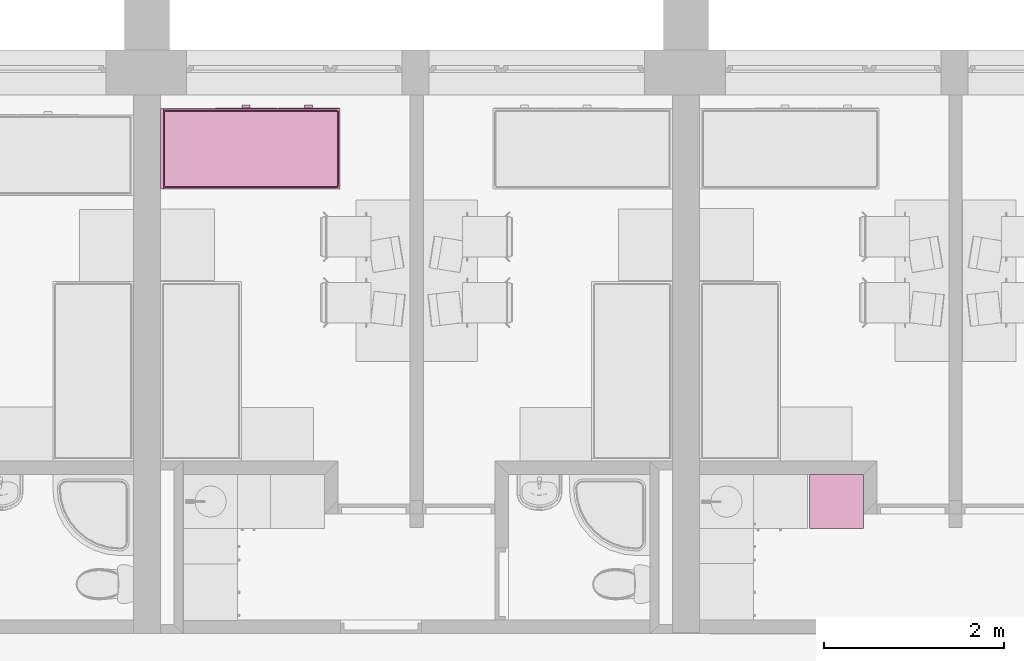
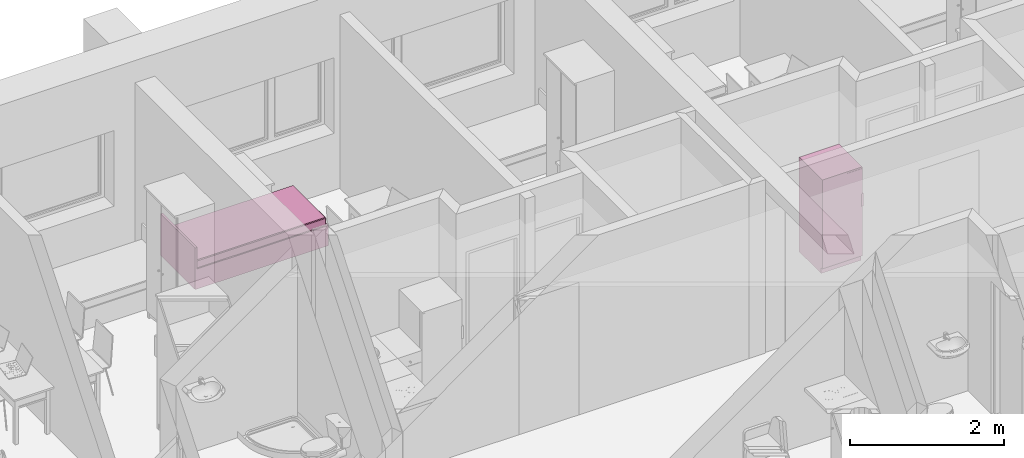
# One storey, part 139 of 172: 2 furnishings.
"""IFC2X3 building model written with IfcOpenShell, lengths in millimetres."""

from ifc_helpers import new_model, entity, si_unit, converted_unit, money_unit, direction, frame, origin_with_axes, place, context, subcontext, project, spatial, open_shell, faceted_brep, surface_model, source, transform, mapped, material, material_list, type_object, element, save


model = new_model("IFC2X3")

# Units and contexts
model_context = context("Model", 3, precision=1e-05, world=origin_with_axes(), true_north=direction((0.0, 1.0)))
body_context = subcontext(model_context, "Body", "Model", "MODEL_VIEW")
ifc_project = project(units=[si_unit("LENGTHUNIT", "METRE", prefix="MILLI"), si_unit("AREAUNIT", "SQUARE_METRE"), si_unit("VOLUMEUNIT", "CUBIC_METRE"), converted_unit("PLANEANGLEUNIT", "DEGREE", entity("IfcPlaneAngleMeasure", 0.0174532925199), si_unit("PLANEANGLEUNIT", "RADIAN"), dimensions=[0, 0, 0, 0, 0, 0, 0]), si_unit("SOLIDANGLEUNIT", "STERADIAN"), money_unit("USD"), converted_unit("TIMEUNIT", "Year", entity("IfcTimeMeasure", 31556926.0), si_unit("TIMEUNIT", "SECOND"), dimensions=[0, 0, 0, 0, 0, 0, 0]), si_unit("MASSUNIT", "GRAM"), si_unit("THERMODYNAMICTEMPERATUREUNIT", "DEGREE_CELSIUS"), si_unit("LUMINOUSINTENSITYUNIT", "LUMEN")], contexts=[model_context])

# Site, building, storey
site_placement = place(None, origin_with_axes())
site = spatial("IfcSite", under=ifc_project, at=site_placement, Name="Site", CompositionType="ELEMENT")
building_placement = place(site_placement, origin_with_axes())
building = spatial("IfcBuilding", under=site, at=building_placement, Name="Building", CompositionType="ELEMENT")
storey_placement = place(building_placement, frame((0.0, 0.0, 3200.0), z_axis=(0.0, 0.0, 1.0), x_axis=(1.0, 0.0, 0.0)))
storey = spatial("IfcBuildingStorey", under=building, at=storey_placement, Name="3KORRUS", CompositionType="ELEMENT", Elevation=3200.0)

# Furnishings
ifc_material = material(Name="Background")
ifc_material_list = material_list([ifc_material])
furnishing_element_type_1 = type_object("IfcFurnishingElementType", Name="Bed 19")
shared_shape_1 = source(origin_with_axes(), body_context, "Body", "Brep", [
    faceted_brep([(900.0, 1970.0, 0.0), (0.0, 1970.0, 0.0), (0.0, 2000.0, 0.0), (900.0, 2000.0, 0.0), (900.0, 1970.0, 660.0), (0.0, 1970.0, 660.0), (0.0, 2000.0, 660.0), (900.0, 2000.0, 660.0)], [[[0, 1, 2, 3]], [[1, 0, 4, 5]], [[2, 1, 5, 6]], [[3, 2, 6, 7]], [[0, 3, 7, 4]], [[5, 4, 7, 6]]]),
    faceted_brep([(900.0, 0.0, 0.0), (0.0, 0.0, 0.0), (0.0, 1970.0, 0.0), (900.0, 1970.0, 0.0), (900.0, 0.0, 320.0), (0.0, 0.0, 320.0), (0.0, 1970.0, 320.0), (900.0, 1970.0, 320.0)], [[[0, 1, 2, 3]], [[1, 0, 4, 5]], [[2, 1, 5, 6]], [[3, 2, 6, 7]], [[0, 3, 7, 4]], [[5, 4, 7, 6]]]),
    faceted_brep([(905.0, 10.0, 30.0), (900.0, 10.0, 30.0), (900.0, 695.0, 30.0), (905.0, 695.0, 30.0), (905.0, 10.0, 290.0), (900.0, 10.0, 290.0), (900.0, 695.0, 290.0), (905.0, 695.0, 290.0)], [[[0, 1, 2, 3]], [[1, 0, 4, 5]], [[2, 1, 5, 6]], [[3, 2, 6, 7]], [[0, 3, 7, 4]], [[5, 4, 7, 6]]]),
    faceted_brep([(935.0, 307.5, 150.0), (905.0, 307.5, 150.0), (905.0, 397.5, 150.0), (935.0, 397.5, 150.0), (935.0, 307.5, 170.0), (905.0, 307.5, 170.0), (905.0, 397.5, 170.0), (935.0, 397.5, 170.0)], [[[0, 1, 2, 3]], [[1, 0, 4, 5]], [[2, 1, 5, 6]], [[3, 2, 6, 7]], [[0, 3, 7, 4]], [[5, 4, 7, 6]]]),
    faceted_brep([(905.0, 705.0, 30.0), (900.0, 705.0, 30.0), (900.0, 1390.0, 30.0), (905.0, 1390.0, 30.0), (905.0, 705.0, 290.0), (900.0, 705.0, 290.0), (900.0, 1390.0, 290.0), (905.0, 1390.0, 290.0)], [[[0, 1, 2, 3]], [[1, 0, 4, 5]], [[2, 1, 5, 6]], [[3, 2, 6, 7]], [[0, 3, 7, 4]], [[5, 4, 7, 6]]]),
    faceted_brep([(935.0, 1002.5, 150.0), (905.0, 1002.5, 150.0), (905.0, 1092.5, 150.0), (935.0, 1092.5, 150.0), (935.0, 1002.5, 170.0), (905.0, 1002.5, 170.0), (905.0, 1092.5, 170.0), (935.0, 1092.5, 170.0)], [[[0, 1, 2, 3]], [[1, 0, 4, 5]], [[2, 1, 5, 6]], [[3, 2, 6, 7]], [[0, 3, 7, 4]], [[5, 4, 7, 6]]]),
    faceted_brep([(20.0, 40.0, 350.0), (20.0, 1950.0, 350.0), (21.522, 1957.654, 350.0), (25.858, 1964.142, 350.0), (32.346, 1968.478, 350.0), (40.0, 1970.0, 350.0), (860.0, 1970.0, 350.0), (867.654, 1968.478, 350.0), (874.142, 1964.142, 350.0), (878.478, 1957.654, 350.0), (880.0, 1950.0, 350.0), (880.0, 40.0, 350.0), (878.478, 32.346, 350.0), (874.142, 25.858, 350.0), (867.654, 21.522, 350.0), (860.0, 20.0, 350.0), (40.0, 20.0, 350.0), (32.346, 21.522, 350.0), (25.858, 25.858, 350.0), (21.522, 32.346, 350.0), (20.0, 40.0, 420.0), (20.0, 1950.0, 420.0), (21.522, 1957.654, 420.0), (25.858, 1964.142, 420.0), (32.346, 1968.478, 420.0), (40.0, 1970.0, 420.0), (860.0, 1970.0, 420.0), (867.654, 1968.478, 420.0), (874.142, 1964.142, 420.0), (878.478, 1957.654, 420.0), (880.0, 1950.0, 420.0), (880.0, 40.0, 420.0), (878.478, 32.346, 420.0), (874.142, 25.858, 420.0), (867.654, 21.522, 420.0), (860.0, 20.0, 420.0), (40.0, 20.0, 420.0), (32.346, 21.522, 420.0), (25.858, 25.858, 420.0), (21.522, 32.346, 420.0), (21.522, 40.15, 427.654), (21.522, 1949.85, 427.654), (22.956, 1957.06, 427.654), (26.955, 1963.045, 427.654), (32.94, 1967.044, 427.654), (40.15, 1968.478, 427.654), (859.85, 1968.478, 427.654), (867.06, 1967.044, 427.654), (873.045, 1963.045, 427.654), (877.044, 1957.06, 427.654), (878.478, 1949.85, 427.654), (878.478, 40.15, 427.654), (877.044, 32.94, 427.654), (873.045, 26.955, 427.654), (867.06, 22.956, 427.654), (859.85, 21.522, 427.654), (40.15, 21.522, 427.654), (32.94, 22.956, 427.654), (26.955, 26.955, 427.654), (22.956, 32.94, 427.654), (32.346, 41.216, 438.478), (32.346, 1948.784, 438.478), (33.152, 1952.836, 438.478), (34.759, 1955.241, 438.478), (37.164, 1956.848, 438.478), (41.216, 1957.654, 438.478), (858.784, 1957.654, 438.478), (862.836, 1956.848, 438.478), (865.241, 1955.241, 438.478), (866.848, 1952.836, 438.478), (867.654, 1948.784, 438.478), (867.654, 41.216, 438.478), (866.848, 37.164, 438.478), (865.241, 34.759, 438.478), (862.836, 33.152, 438.478), (858.784, 32.346, 438.478), (41.216, 32.346, 438.478), (37.164, 33.152, 438.478), (34.759, 34.759, 438.478), (33.152, 37.164, 438.478), (40.0, 41.97, 440.0), (40.0, 1948.03, 440.0), (40.327, 1949.673, 440.0), (40.0, 1950.0, 439.924), (41.97, 1950.0, 440.0), (858.03, 1950.0, 440.0), (859.673, 1949.673, 440.0), (860.0, 1950.0, 439.924), (860.0, 1948.03, 440.0), (860.0, 41.97, 440.0), (859.673, 40.327, 440.0), (860.0, 40.0, 439.924), (858.03, 40.0, 440.0), (41.97, 40.0, 440.0), (40.327, 40.327, 440.0), (40.0, 40.0, 439.924)], [[[0, 1, 2, 3, 4, 5, 6, 7, 8, 9, 10, 11, 12, 13, 14, 15, 16, 17, 18, 19]], [[1, 0, 20, 21]], [[2, 1, 21, 22]], [[3, 2, 22, 23]], [[4, 3, 23, 24]], [[5, 4, 24, 25]], [[6, 5, 25, 26]], [[7, 6, 26, 27]], [[8, 7, 27, 28]], [[9, 8, 28, 29]], [[10, 9, 29, 30]], [[11, 10, 30, 31]], [[12, 11, 31, 32]], [[13, 12, 32, 33]], [[14, 13, 33, 34]], [[15, 14, 34, 35]], [[16, 15, 35, 36]], [[17, 16, 36, 37]], [[18, 17, 37, 38]], [[19, 18, 38, 39]], [[0, 19, 39, 20]], [[21, 20, 40, 41]], [[22, 21, 41, 42]], [[23, 22, 42, 43]], [[24, 23, 43, 44]], [[25, 24, 44, 45]], [[26, 25, 45, 46]], [[27, 26, 46, 47]], [[28, 27, 47, 48]], [[29, 28, 48, 49]], [[30, 29, 49, 50]], [[31, 30, 50, 51]], [[32, 31, 51, 52]], [[33, 32, 52, 53]], [[34, 33, 53, 54]], [[35, 34, 54, 55]], [[36, 35, 55, 56]], [[37, 36, 56, 57]], [[38, 37, 57, 58]], [[39, 38, 58, 59]], [[20, 39, 59, 40]], [[41, 40, 60, 61]], [[42, 41, 61, 62]], [[43, 42, 62, 63]], [[44, 43, 63, 64]], [[45, 44, 64, 65]], [[46, 45, 65, 66]], [[47, 46, 66, 67]], [[48, 47, 67, 68]], [[49, 48, 68, 69]], [[50, 49, 69, 70]], [[51, 50, 70, 71]], [[52, 51, 71, 72]], [[53, 52, 72, 73]], [[54, 53, 73, 74]], [[55, 54, 74, 75]], [[56, 55, 75, 76]], [[57, 56, 76, 77]], [[58, 57, 77, 78]], [[59, 58, 78, 79]], [[40, 59, 79, 60]], [[61, 60, 80, 81]], [[62, 61, 81, 82, 83]], [[63, 62, 83]], [[64, 63, 83]], [[65, 64, 83, 82, 84]], [[66, 65, 84, 85]], [[67, 66, 85, 86, 87]], [[68, 67, 87]], [[69, 68, 87]], [[70, 69, 87, 86, 88]], [[71, 70, 88, 89]], [[72, 71, 89, 90, 91]], [[73, 72, 91]], [[74, 73, 91]], [[75, 74, 91, 90, 92]], [[76, 75, 92, 93]], [[77, 76, 93, 94, 95]], [[78, 77, 95]], [[79, 78, 95]], [[60, 79, 95, 94, 80]], [[81, 80, 94, 93, 92, 90, 89, 88, 86, 85, 84, 82]]]),
    faceted_brep([(20.0, 40.0, 350.0), (21.522, 32.346, 350.0), (25.858, 25.858, 350.0), (32.346, 21.522, 350.0), (40.0, 20.0, 350.0), (860.0, 20.0, 350.0), (867.654, 21.522, 350.0), (874.142, 25.858, 350.0), (878.478, 32.346, 350.0), (880.0, 40.0, 350.0), (880.0, 1950.0, 350.0), (878.478, 1957.654, 350.0), (874.142, 1964.142, 350.0), (867.654, 1968.478, 350.0), (860.0, 1970.0, 350.0), (40.0, 1970.0, 350.0), (32.346, 1968.478, 350.0), (25.858, 1964.142, 350.0), (21.522, 1957.654, 350.0), (20.0, 1950.0, 350.0), (20.0, 40.0, 320.0), (21.522, 32.346, 320.0), (25.858, 25.858, 320.0), (32.346, 21.522, 320.0), (40.0, 20.0, 320.0), (860.0, 20.0, 320.0), (867.654, 21.522, 320.0), (874.142, 25.858, 320.0), (878.478, 32.346, 320.0), (880.0, 40.0, 320.0), (880.0, 1950.0, 320.0), (878.478, 1957.654, 320.0), (874.142, 1964.142, 320.0), (867.654, 1968.478, 320.0), (860.0, 1970.0, 320.0), (40.0, 1970.0, 320.0), (32.346, 1968.478, 320.0), (25.858, 1964.142, 320.0), (21.522, 1957.654, 320.0), (20.0, 1950.0, 320.0)], [[[0, 1, 2, 3, 4, 5, 6, 7, 8, 9, 10, 11, 12, 13, 14, 15, 16, 17, 18, 19]], [[0, 20, 21, 1]], [[1, 21, 22, 2]], [[2, 22, 23, 3]], [[3, 23, 24, 4]], [[4, 24, 25, 5]], [[5, 25, 26, 6]], [[6, 26, 27, 7]], [[7, 27, 28, 8]], [[8, 28, 29, 9]], [[9, 29, 30, 10]], [[10, 30, 31, 11]], [[11, 31, 32, 12]], [[12, 32, 33, 13]], [[13, 33, 34, 14]], [[14, 34, 35, 15]], [[15, 35, 36, 16]], [[16, 36, 37, 17]], [[17, 37, 38, 18]], [[18, 38, 39, 19]], [[19, 39, 20, 0]], [[20, 39, 38, 37, 36, 35, 34, 33, 32, 31, 30, 29, 28, 27, 26, 25, 24, 23, 22, 21]]]),
])
furnishing_1_placement = place(storey_placement, frame((2009.70329669, -6189.6041088, 0.0), z_axis=(0.0, 0.0, 1.0), x_axis=(0.0, 1.0, 0.0)))
element("IfcFurnishingElement", 1, at=furnishing_1_placement, inside=storey, type_object=furnishing_element_type_1, material=ifc_material_list, Name="FU - 013", context=body_context, shape_type="MappedRepresentation", body=[
    mapped(shared_shape_1, transform((0.0, 0.0, 0.0))),
])
furnishing_element_type_2 = type_object("IfcFurnishingElementType", Name="Refrigerator 19")
shared_shape_2 = source(origin_with_axes(), body_context, "Body", "SurfaceModel", [
    faceted_brep([(0.0, 0.0, 1475.0), (600.0, 0.0, 1475.0), (600.0, 0.0, 1500.0), (0.0, 0.0, 1500.0), (0.0, 600.0, 1475.0), (600.0, 600.0, 1475.0), (600.0, 600.0, 1500.0), (0.0, 600.0, 1500.0)], [[[0, 1, 2, 3]], [[0, 4, 5, 1]], [[1, 5, 6, 2]], [[3, 2, 6, 7]], [[4, 0, 3, 7]], [[5, 4, 7, 6]]]),
    faceted_brep([(0.0, 65.0, 0.0), (600.0, 65.0, 0.0), (600.0, 65.0, 1475.0), (0.0, 65.0, 1475.0), (0.0, 600.0, 0.0), (600.0, 600.0, 0.0), (600.0, 600.0, 1475.0), (0.0, 600.0, 1475.0)], [[[0, 1, 2, 3]], [[0, 4, 5, 1]], [[1, 5, 6, 2]], [[3, 2, 6, 7]], [[4, 0, 3, 7]], [[5, 4, 7, 6]]]),
    faceted_brep([(0.0, 30.0, 0.0), (600.0, 30.0, 0.0), (600.0, 30.0, 90.0), (0.0, 30.0, 90.0), (0.0, 60.0, 0.0), (600.0, 60.0, 0.0), (600.0, 60.0, 90.0), (0.0, 60.0, 90.0)], [[[0, 1, 2, 3]], [[0, 4, 5, 1]], [[1, 5, 6, 2]], [[3, 2, 6, 7]], [[4, 0, 3, 7]], [[5, 4, 7, 6]]]),
    faceted_brep([(0.0, 60.0, 90.0), (600.0, 60.0, 90.0), (600.0, 0.0, 90.0), (0.0, 0.0, 90.0), (0.0, 60.0, 1474.5), (600.0, 60.0, 1474.5), (600.0, 0.0, 1474.5), (0.0, 0.0, 1474.5)], [[[0, 1, 2, 3]], [[0, 4, 5, 1]], [[1, 5, 6, 2]], [[3, 2, 6, 7]], [[4, 0, 3, 7]], [[5, 4, 7, 6]]]),
    surface_model("IfcShellBasedSurfaceModel", [(600.0, -30.0, 900.0), (600.0, -30.0, 1100.0), (600.0, 0.0, 1100.0), (600.0, 0.0, 900.0)], [open_shell([[[0, 1, 2, 3]]])]),
    surface_model("IfcShellBasedSurfaceModel", [(600.0, -30.0, 900.0), (600.0, -30.0, 1100.0), (570.0, -30.0, 1100.0), (570.0, -30.0, 900.0)], [open_shell([[[0, 1, 2, 3]]])]),
])
furnishing_2_placement = place(storey_placement, frame((7234.2564771, -9967.37850445, 0.0), z_axis=(0.0, 0.0, 1.0), x_axis=(1.0, 0.0, 0.0)))
element("IfcFurnishingElement", 2, at=furnishing_2_placement, inside=storey, type_object=furnishing_element_type_2, material=ifc_material_list, Name="FU - 007", context=body_context, shape_type="MappedRepresentation", body=[
    mapped(shared_shape_2, transform((0.0, 0.0, 0.0))),
])

save(model, "model.ifc")
